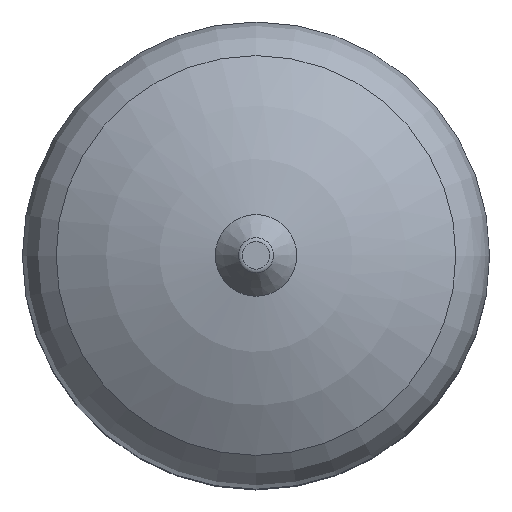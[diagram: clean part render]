
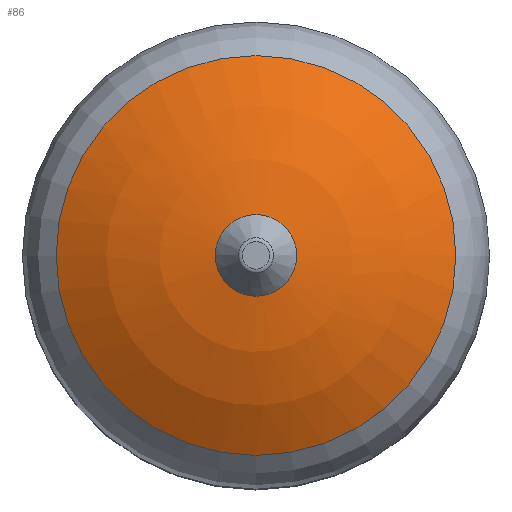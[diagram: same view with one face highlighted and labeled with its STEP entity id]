
A CAD part, top view. The second image highlights one B-rep face of the part: STEP entity #86.
In plain terms, the highlighted spherical face has radius 232 mm.
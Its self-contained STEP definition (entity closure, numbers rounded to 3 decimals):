
#86=ADVANCED_FACE('',(#385,#387),#389,.T.);
#385=FACE_BOUND('',#386,.T.);
#386=EDGE_LOOP('',(#549,#550));
#387=FACE_BOUND('',#388,.T.);
#388=EDGE_LOOP('',(#551,#552));
#389=SPHERICAL_SURFACE('',#390,232.);
#390=AXIS2_PLACEMENT_3D('',#391,#392,#393);
#391=CARTESIAN_POINT('',(0.,0.,213.217));
#392=DIRECTION('',(0.,0.,1.));
#393=DIRECTION('',(1.,0.,0.));
#549=ORIENTED_EDGE('',*,*,#628,.T.);
#550=ORIENTED_EDGE('',*,*,#627,.T.);
#551=ORIENTED_EDGE('',*,*,#629,.F.);
#552=ORIENTED_EDGE('',*,*,#630,.F.);
#627=EDGE_CURVE('',#763,#764,#765,.T.);
#628=EDGE_CURVE('',#764,#763,#766,.T.);
#629=EDGE_CURVE('',#767,#768,#769,.T.);
#630=EDGE_CURVE('',#768,#767,#770,.T.);
#763=VERTEX_POINT('',#1099);
#764=VERTEX_POINT('',#1100);
#765=CIRCLE('',#1101,124.064);
#766=CIRCLE('',#1105,124.064);
#767=VERTEX_POINT('',#1109);
#768=VERTEX_POINT('',#1110);
#769=CIRCLE('',#1111,25.316);
#770=CIRCLE('',#1115,25.316);
#1099=CARTESIAN_POINT('',(-124.064,0.,409.258));
#1100=CARTESIAN_POINT('',(124.064,0.,409.258));
#1101=AXIS2_PLACEMENT_3D('',#1102,#1103,#1104);
#1102=CARTESIAN_POINT('',(0.,0.,409.258));
#1103=DIRECTION('',(0.,0.,1.));
#1104=DIRECTION('',(-1.,0.,0.));
#1105=AXIS2_PLACEMENT_3D('',#1106,#1107,#1108);
#1106=CARTESIAN_POINT('',(0.,0.,409.258));
#1107=DIRECTION('',(0.,0.,1.));
#1108=DIRECTION('',(1.,0.,0.));
#1109=CARTESIAN_POINT('',(-25.316,0.,443.832));
#1110=CARTESIAN_POINT('',(25.316,0.,443.832));
#1111=AXIS2_PLACEMENT_3D('',#1112,#1113,#1114);
#1112=CARTESIAN_POINT('',(0.,0.,443.832));
#1113=DIRECTION('',(0.,0.,1.));
#1114=DIRECTION('',(-1.,0.,0.));
#1115=AXIS2_PLACEMENT_3D('',#1116,#1117,#1118);
#1116=CARTESIAN_POINT('',(0.,0.,443.832));
#1117=DIRECTION('',(0.,0.,1.));
#1118=DIRECTION('',(1.,0.,0.));
